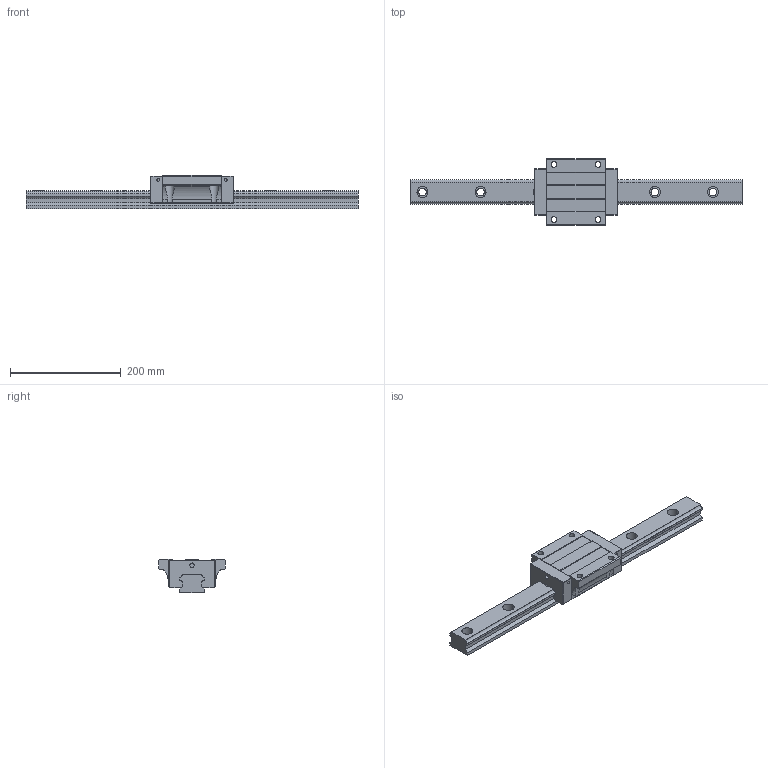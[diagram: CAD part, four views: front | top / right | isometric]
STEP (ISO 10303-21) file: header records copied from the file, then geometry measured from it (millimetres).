
FILE_DESCRIPTION (( 'STEP AP203' ), '1' );
FILE_NAME ('TRH45FL-ZN.STEP', '2024-05-14T08:45:30', ( '' ), ( '' ), 'SwSTEP 2.0', 'SolidWorks 2022', '' );
FILE_SCHEMA (( 'CONFIG_CONTROL_DESIGN' ));
Length unit declared in the file: millimetre
Products named in the file (1): TRH45FL-ZN
Bounding box: 600 x 120 x 60 mm (x, y, z)
Volume: 1267211 mm3; surface area: 172887.2 mm2
Topology: 2 solids, 2 shells, 214 faces, 582 edges, 380 vertices
Faces by surface type: cylinder 114, plane 96, sphere 4
Entity records: 7405 total; most frequent: CARTESIAN_POINT 1785, DIRECTION 1172, ORIENTED_EDGE 1156, EDGE_CURVE 578, AXIS2_PLACEMENT_3D 411, VERTEX_POINT 380, LINE 350, VECTOR 350
